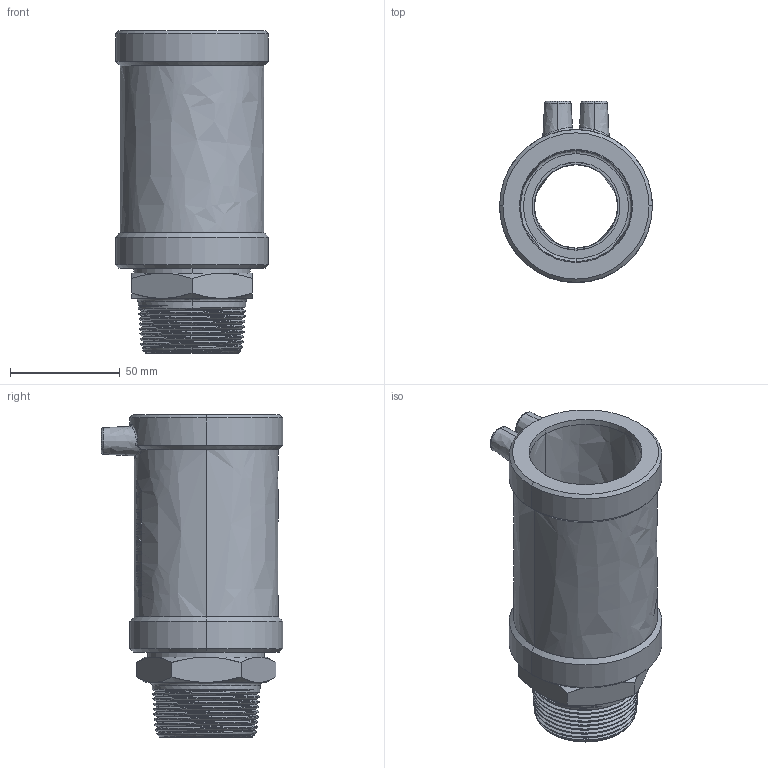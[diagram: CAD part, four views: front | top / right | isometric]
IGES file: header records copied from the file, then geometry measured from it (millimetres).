
Start section:  PTC IGES file: ustn_d50_1_1-2_01.igs
Global section: file name: ustn_d50_1_1-2_01.igs; native system: Pro/ENGINEER by Parametric Technology Corporation; preprocessor: 2011490; author: mtunjic; organization: Unknown; date: 20130823.110756; units: millimetre
Bounding box: 69.5 x 82.4 x 146.8 mm (x, y, z)
Surface area: 60549.7 mm2 (no closed solid volume)
Topology: 0 solids, 0 shells, 238 faces, 1206 edges, 1206 vertices
Faces by surface type: bspline 238
